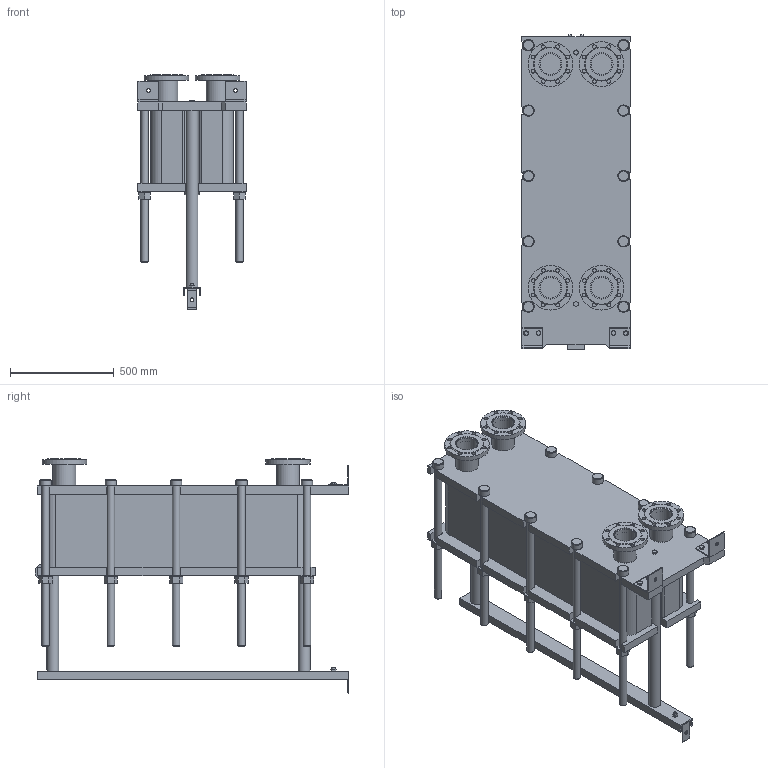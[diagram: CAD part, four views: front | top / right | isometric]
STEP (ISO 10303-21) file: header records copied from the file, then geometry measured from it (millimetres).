
FILE_DESCRIPTION(/* description */ (''),/* implementation_level */ '2;1');
FILE_NAME(/* name */ 'C:\Users\zhuro\Desktop\ENCO\TO\ЭН-04\ЭН-0,5-04-102-1.stp',/* time_stamp */ '2022-06-06T10:54:11+03:00',/* author */ ('zhuro'),/* organization */ (''),/* preprocessor_version */ 'ST-DEVELOPER v18.1',/* originating_system */ 'Autodesk Inventor 2022',/* authorisation */ '');
FILE_SCHEMA (('AUTOMOTIVE_DESIGN { 1 0 10303 214 3 1 1 }'));
Length unit declared in the file: millimetre
Products named in the file (1): ЭН-0,5-04-102-1
Bounding box: 520 x 1510 x 1126 mm (x, y, z)
Volume: 247177672.4 mm3; surface area: 8399242.1 mm2
Topology: 45 solids, 45 shells, 668 faces, 1611 edges, 1048 vertices
Faces by surface type: plane 457, cylinder 166, cone 39, torus 6
Full cylindrical faces by diameter (mm): 8 x4, 10 x2, 16 x8, 18 x35, 36 x25, 40 x2, 42 x1, 45 x4, 54 x10, 57 x2, 60 x10, 68 x2, 100 x4, 110 x8, 215 x4
Entity records: 23607 total; most frequent: CARTESIAN_POINT 7348, DIRECTION 3371, ORIENTED_EDGE 3142, EDGE_CURVE 1571, AXIS2_PLACEMENT_3D 1199, VERTEX_POINT 1044, LINE 973, VECTOR 973
